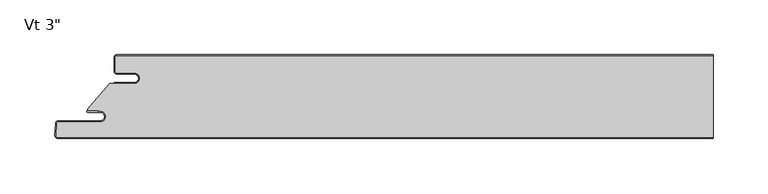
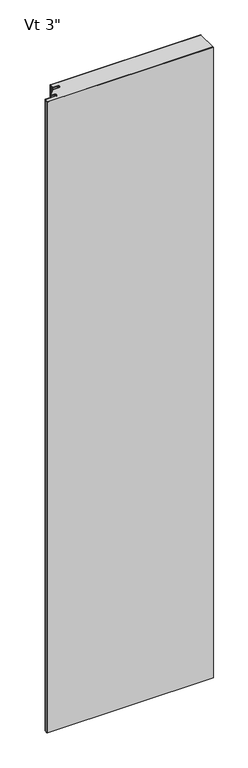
"""IFC4 building model written with IfcOpenShell, lengths in millimetres: plate geometry."""

from ifc_helpers import new_model, si_unit, point, frame_2d, origin, origin_with_axes, place, context, project, spatial, polyline, circle_curve, trimmed, segment, composite_curve, outline, extrude, source, transform, mapped, element, save


def plate_c69ce531(model_context):
    return source(origin(), model_context, "Body", "SweptSolid", [
        extrude(outline(composite_curve([segment(polyline([(-253.7499998, -16.4625), (-269.6249998, -16.4625)]), True, "CONTINUOUS"), segment(trimmed(circle_curve(frame_2d((-269.6249998, -15.08125)), 1.38125), [point((-269.6249998, -16.4625))], [point((-271.0062498, -15.08125))], False, "CARTESIAN"), True, "CONTINUOUS"), segment(polyline([(-271.0062498, -15.08125), (-271.0062498, -2.38125)]), True, "CONTINUOUS"), segment(trimmed(circle_curve(frame_2d((-269.6249998, -2.38125)), 1.38125), [point((-271.0062498, -2.38125))], [point((-269.6249998, -1.0))], False, "CARTESIAN"), True, "CONTINUOUS"), segment(polyline([(-269.6249998, -1.0), (272.7999998, -1.0), (272.7999998, -75.2), (-323.4862034, -75.2)]), True, "CONTINUOUS"), segment(trimmed(circle_curve(frame_2d((-323.4862034, -73.81875)), 1.38125), [point((-323.4862034, -75.2))], [point((-324.8655604, -73.746461))], False, "CARTESIAN"), True, "CONTINUOUS"), segment(polyline([(-324.8655604, -73.746461), (-324.283179, -62.633961)]), True, "CONTINUOUS"), segment(trimmed(circle_curve(frame_2d((-322.9038219, -62.70625)), 1.38125), [point((-324.283179, -62.633961))], [point((-322.9038219, -61.325))], False, "CARTESIAN"), True, "CONTINUOUS"), segment(polyline([(-322.9038219, -61.325), (-284.7205173, -61.325)]), True, "CONTINUOUS"), segment(trimmed(circle_curve(frame_2d((-284.7205173, -56.35625)), 4.96875), [point((-284.7205173, -61.325))], [point((-284.7205173, -51.3875))], True, "CARTESIAN"), True, "CONTINUOUS"), segment(polyline([(-284.7205173, -51.3875), (-286.3080173, -51.59375), (-286.3080173, -50.8), (-295.8187498, -50.8), (-295.8187498, -49.2157227), (-275.9323421, -26.4), (-253.7499998, -26.4)]), True, "CONTINUOUS"), segment(trimmed(circle_curve(frame_2d((-253.7499998, -21.43125)), 4.96875), [point((-253.7499998, -26.4))], [point((-253.7499998, -16.4625))], True, "CARTESIAN"), True, "CONTINUOUS")], self_intersect=False)), origin_with_axes(), (0.0, 0.0, 1.0), 2400.0),
        extrude(outline(composite_curve([segment(polyline([(-272.0062498, -25.4), (-253.7499998, -25.4)]), True, "CONTINUOUS"), segment(trimmed(circle_curve(frame_2d((-253.7499998, -21.43125)), 3.96875), [point((-253.7499998, -25.4))], [point((-253.7499998, -17.4625))], True, "CARTESIAN"), True, "CONTINUOUS"), segment(polyline([(-253.7499998, -17.4625), (-269.6249998, -17.4625)]), True, "CONTINUOUS"), segment(trimmed(circle_curve(frame_2d((-269.6249998, -15.08125)), 2.38125), [point((-269.6249998, -17.4625))], [point((-272.0062498, -15.08125))], False, "CARTESIAN"), True, "CONTINUOUS"), segment(polyline([(-272.0062498, -15.08125), (-272.0062498, -2.38125)]), True, "CONTINUOUS"), segment(trimmed(circle_curve(frame_2d((-269.6249998, -2.38125)), 2.38125), [point((-272.0062498, -2.38125))], [point((-269.6249998, 0.0))], False, "CARTESIAN"), True, "CONTINUOUS"), segment(polyline([(-269.6249998, 0.0), (272.7999998, 0.0), (272.7999998, -1.0), (-269.6249998, -1.0)]), True, "CONTINUOUS"), segment(trimmed(circle_curve(frame_2d((-269.6249998, -2.38125)), 1.38125), [point((-269.6249998, -1.0))], [point((-271.0062498, -2.38125))], True, "CARTESIAN"), True, "CONTINUOUS"), segment(polyline([(-271.0062498, -2.38125), (-271.0062498, -15.08125)]), True, "CONTINUOUS"), segment(trimmed(circle_curve(frame_2d((-269.6249998, -15.08125)), 1.38125), [point((-271.0062498, -15.08125))], [point((-269.6249998, -16.4625))], True, "CARTESIAN"), True, "CONTINUOUS"), segment(polyline([(-269.6249998, -16.4625), (-253.7499998, -16.4625)]), True, "CONTINUOUS"), segment(trimmed(circle_curve(frame_2d((-253.7499998, -21.43125)), 4.96875), [point((-253.7499998, -16.4625))], [point((-253.7499998, -26.4))], False, "CARTESIAN"), True, "CONTINUOUS"), segment(polyline([(-253.7499998, -26.4), (-272.0062498, -26.4), (-272.0062498, -25.4)]), True, "CONTINUOUS")], self_intersect=False)), origin_with_axes(), (0.0, 0.0, 1.0), 2400.0),
        extrude(outline(composite_curve([segment(polyline([(-296.0314548, -50.8), (-286.3080173, -50.8), (-286.3080173, -51.59375), (-284.7205173, -51.3875)]), True, "CONTINUOUS"), segment(trimmed(circle_curve(frame_2d((-284.7205173, -56.35625)), 4.96875), [point((-284.7205173, -51.3875))], [point((-284.7205173, -61.325))], False, "CARTESIAN"), True, "CONTINUOUS"), segment(polyline([(-284.7205173, -61.325), (-322.9038219, -61.325)]), True, "CONTINUOUS"), segment(trimmed(circle_curve(frame_2d((-322.9038219, -62.70625)), 1.38125), [point((-322.9038219, -61.325))], [point((-324.283179, -62.633961))], True, "CARTESIAN"), True, "CONTINUOUS"), segment(polyline([(-324.283179, -62.633961), (-324.8655604, -73.746461)]), True, "CONTINUOUS"), segment(trimmed(circle_curve(frame_2d((-323.4862034, -73.81875)), 1.38125), [point((-324.8655604, -73.746461))], [point((-323.4862034, -75.2))], True, "CARTESIAN"), True, "CONTINUOUS"), segment(polyline([(-323.4862034, -75.2), (272.7999998, -75.2), (272.7999998, -76.2), (-323.4862034, -76.2)]), True, "CONTINUOUS"), segment(trimmed(circle_curve(frame_2d((-323.4862034, -73.81875)), 2.38125), [point((-323.4862034, -76.2))], [point((-325.8641899, -73.694125))], False, "CARTESIAN"), True, "CONTINUOUS"), segment(polyline([(-325.8641899, -73.694125), (-325.2818085, -62.581625)]), True, "CONTINUOUS"), segment(trimmed(circle_curve(frame_2d((-322.9038219, -62.70625)), 2.38125), [point((-325.2818085, -62.581625))], [point((-322.9038219, -60.325))], False, "CARTESIAN"), True, "CONTINUOUS"), segment(polyline([(-322.9038219, -60.325), (-284.7205173, -60.325)]), True, "CONTINUOUS"), segment(trimmed(circle_curve(frame_2d((-284.7205173, -56.35625)), 3.96875), [point((-284.7205173, -60.325))], [point((-284.7205173, -52.3875))], True, "CARTESIAN"), True, "CONTINUOUS"), segment(polyline([(-284.7205173, -52.3875), (-296.0314548, -52.3875)]), True, "CONTINUOUS"), segment(trimmed(circle_curve(frame_2d((-296.0314548, -51.59375)), 0.79375), [point((-296.0314548, -52.3875))], [point((-296.0314548, -50.8))], False, "CARTESIAN"), True, "CONTINUOUS")], self_intersect=False)), origin_with_axes(), (0.0, 0.0, 1.0), 2400.0),
    ])


if __name__ == "__main__":
    model = new_model("IFC4")
    model_context = context("Model", 3, world=origin())
    ifc_project = project(units=[si_unit("LENGTHUNIT", "METRE", prefix="MILLI")], contexts=[model_context])
    site = spatial("IfcSite", under=ifc_project)
    building = spatial("IfcBuilding", under=site)
    placement = place(None, origin())
    plate_shape = plate_c69ce531(model_context)
    element("IfcPlate", 1, ObjectType="KIP-36-DWTR-R19-CP-Vt-F : Vt 3\"", at=placement, inside=building, context=model_context, shape_type="MappedRepresentation", body=[
        mapped(plate_shape, transform((0.0, 0.0, 0.0), x_axis=(1.0, 0.0, 0.0), y_axis=(0.0, 1.0, 0.0), z_axis=(0.0, 0.0, 1.0))),
    ])
    save(model, "model.ifc")
